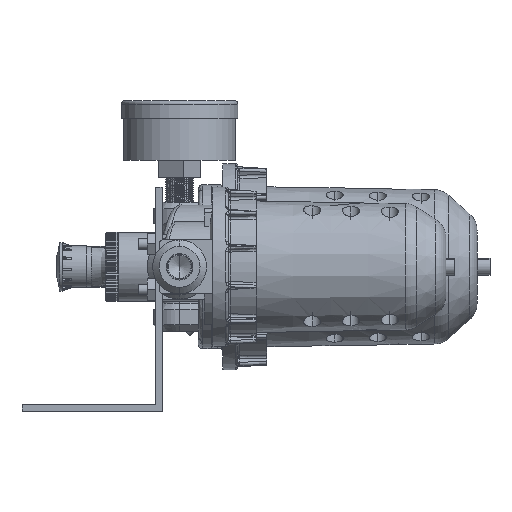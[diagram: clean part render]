
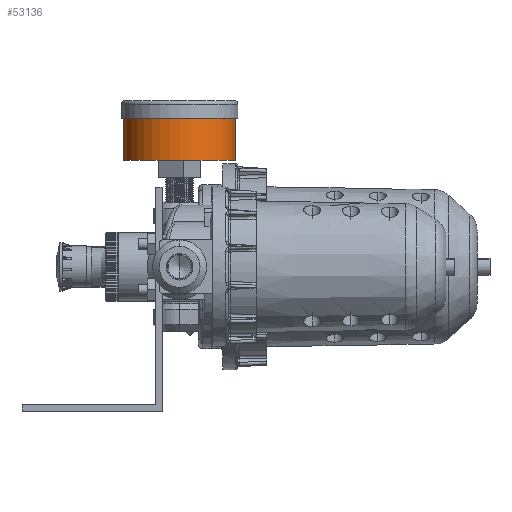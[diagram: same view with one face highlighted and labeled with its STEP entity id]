
A CAD part, left-side view. The second image highlights one B-rep face of the part: STEP entity #53136.
In plain terms, the highlighted cylindrical face has radius 26 mm (diameter 52 mm), a partial arc.
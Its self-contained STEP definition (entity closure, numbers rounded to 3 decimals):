
#5656 = CARTESIAN_POINT ( 'NONE',  ( 0., 27.5, 0. ) ) ;
#7198 = EDGE_LOOP ( 'NONE', ( #49998, #69125, #35407, #12924 ) ) ;
#7409 = CARTESIAN_POINT ( 'NONE',  ( 0., 0., 0. ) ) ;
#8462 = EDGE_CURVE ( 'NONE', #66230, #63331, #34077, .T. ) ;
#9290 = CARTESIAN_POINT ( 'NONE',  ( 0., 0., 26. ) ) ;
#10667 = DIRECTION ( 'NONE',  ( 0., -1., 0. ) ) ;
#12086 = LINE ( 'NONE', #40937, #60294 ) ;
#12924 = ORIENTED_EDGE ( 'NONE', *, *, #18995, .T. ) ;
#13518 = AXIS2_PLACEMENT_3D ( 'NONE', #7409, #64549, #76844 ) ;
#15935 = VERTEX_POINT ( 'NONE', #9290 ) ;
#18995 = EDGE_CURVE ( 'NONE', #37593, #15935, #43828, .T. ) ;
#30791 = CYLINDRICAL_SURFACE ( 'NONE', #78350, 26. ) ;
#32521 = CARTESIAN_POINT ( 'NONE',  ( 0., 19.5, -26. ) ) ;
#34077 = CIRCLE ( 'NONE', #39654, 26. ) ;
#35407 = ORIENTED_EDGE ( 'NONE', *, *, #54739, .T. ) ;
#35634 = LINE ( 'NONE', #58901, #77817 ) ;
#36219 = CARTESIAN_POINT ( 'NONE',  ( 0., 0., -26. ) ) ;
#37593 = VERTEX_POINT ( 'NONE', #36219 ) ;
#39654 = AXIS2_PLACEMENT_3D ( 'NONE', #53364, #59131, #52837 ) ;
#40937 = CARTESIAN_POINT ( 'NONE',  ( 0., 27.5, 26. ) ) ;
#43828 = CIRCLE ( 'NONE', #13518, 26. ) ;
#47550 = FACE_OUTER_BOUND ( 'NONE', #7198, .T. ) ;
#49998 = ORIENTED_EDGE ( 'NONE', *, *, #74859, .F. ) ;
#52837 = DIRECTION ( 'NONE',  ( 0., 0., 1. ) ) ;
#53136 = ADVANCED_FACE ( 'NONE', ( #47550 ), #30791, .T. ) ;
#53364 = CARTESIAN_POINT ( 'NONE',  ( 0., 19.5, 0. ) ) ;
#54739 = EDGE_CURVE ( 'NONE', #66230, #37593, #35634, .T. ) ;
#58636 = DIRECTION ( 'NONE',  ( 0., -1., 0. ) ) ;
#58901 = CARTESIAN_POINT ( 'NONE',  ( 0., 27.5, -26. ) ) ;
#59131 = DIRECTION ( 'NONE',  ( 0., 1., 0. ) ) ;
#59822 = CARTESIAN_POINT ( 'NONE',  ( 0., 19.5, 26. ) ) ;
#60294 = VECTOR ( 'NONE', #10667, 1000. ) ;
#61194 = DIRECTION ( 'NONE',  ( 0., -1., 0. ) ) ;
#63331 = VERTEX_POINT ( 'NONE', #59822 ) ;
#64549 = DIRECTION ( 'NONE',  ( 0., 1., 0. ) ) ;
#66230 = VERTEX_POINT ( 'NONE', #32521 ) ;
#69125 = ORIENTED_EDGE ( 'NONE', *, *, #8462, .F. ) ;
#72427 = DIRECTION ( 'NONE',  ( 0., 0., -1. ) ) ;
#74859 = EDGE_CURVE ( 'NONE', #63331, #15935, #12086, .T. ) ;
#76844 = DIRECTION ( 'NONE',  ( 0., 0., 1. ) ) ;
#77817 = VECTOR ( 'NONE', #58636, 1000. ) ;
#78350 = AXIS2_PLACEMENT_3D ( 'NONE', #5656, #61194, #72427 ) ;
